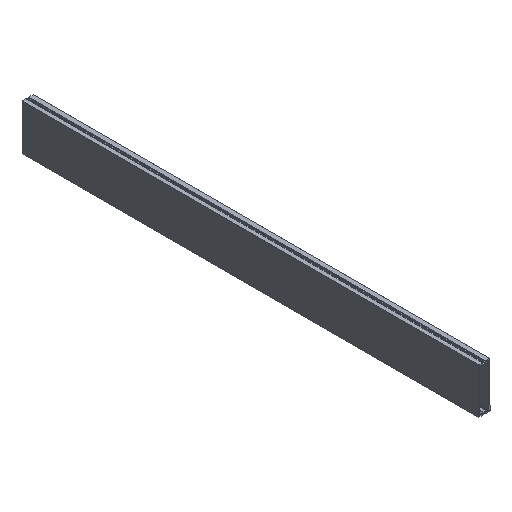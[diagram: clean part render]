
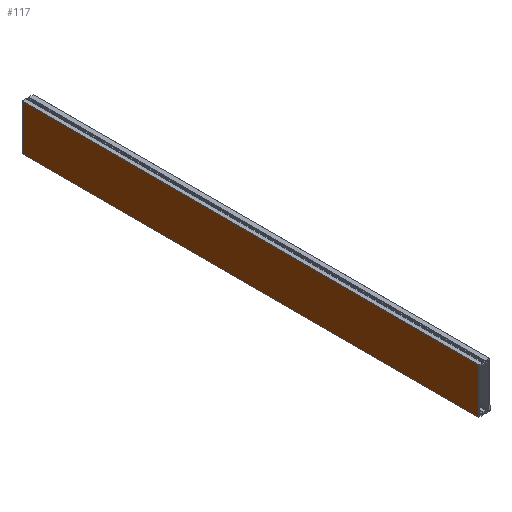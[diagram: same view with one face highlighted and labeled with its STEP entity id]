
A CAD part, isometric view. The second image highlights one B-rep face of the part: STEP entity #117.
In plain terms, the highlighted planar face has unit normal (-1, 0, 0).
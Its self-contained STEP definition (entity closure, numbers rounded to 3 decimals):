
#98 = CARTESIAN_POINT ( 'NONE',  ( -37., 0., -149.5 ) ) ;
#117 = ADVANCED_FACE ( 'NONE', ( #2557 ), #2213, .F. ) ;
#198 = VERTEX_POINT ( 'NONE', #3120 ) ;
#207 = VERTEX_POINT ( 'NONE', #2539 ) ;
#211 = CARTESIAN_POINT ( 'NONE',  ( -37., 3000., -149.5 ) ) ;
#225 = LINE ( 'NONE', #2840, #2895 ) ;
#275 = LINE ( 'NONE', #524, #920 ) ;
#356 = CARTESIAN_POINT ( 'NONE',  ( -37., 0., -149.5 ) ) ;
#496 = DIRECTION ( 'NONE',  ( 0., -1., 0. ) ) ;
#524 = CARTESIAN_POINT ( 'NONE',  ( -37., 3000., -149.5 ) ) ;
#569 = VERTEX_POINT ( 'NONE', #211 ) ;
#658 = DIRECTION ( 'NONE',  ( 0., 0., -1. ) ) ;
#864 = DIRECTION ( 'NONE',  ( 0., 0., 1. ) ) ;
#907 = CARTESIAN_POINT ( 'NONE',  ( -37., 3000., -149.5 ) ) ;
#920 = VECTOR ( 'NONE', #3162, 1000. ) ;
#1062 = EDGE_LOOP ( 'NONE', ( #1100, #2503, #2317, #1361 ) ) ;
#1075 = AXIS2_PLACEMENT_3D ( 'NONE', #907, #1954, #658 ) ;
#1100 = ORIENTED_EDGE ( 'NONE', *, *, #1209, .T. ) ;
#1209 = EDGE_CURVE ( 'NONE', #1256, #207, #1957, .T. ) ;
#1256 = VERTEX_POINT ( 'NONE', #98 ) ;
#1281 = EDGE_CURVE ( 'NONE', #198, #207, #3229, .T. ) ;
#1361 = ORIENTED_EDGE ( 'NONE', *, *, #2210, .T. ) ;
#1793 = VECTOR ( 'NONE', #864, 1000. ) ;
#1922 = CARTESIAN_POINT ( 'NONE',  ( -37., 3000., 149.5 ) ) ;
#1954 = DIRECTION ( 'NONE',  ( 1., 0., 0. ) ) ;
#1957 = LINE ( 'NONE', #356, #1793 ) ;
#2210 = EDGE_CURVE ( 'NONE', #569, #1256, #225, .T. ) ;
#2213 = PLANE ( 'NONE',  #1075 ) ;
#2227 = VECTOR ( 'NONE', #2971, 1000. ) ;
#2317 = ORIENTED_EDGE ( 'NONE', *, *, #2418, .F. ) ;
#2418 = EDGE_CURVE ( 'NONE', #569, #198, #275, .T. ) ;
#2503 = ORIENTED_EDGE ( 'NONE', *, *, #1281, .F. ) ;
#2539 = CARTESIAN_POINT ( 'NONE',  ( -37., 0., 149.5 ) ) ;
#2557 = FACE_OUTER_BOUND ( 'NONE', #1062, .T. ) ;
#2840 = CARTESIAN_POINT ( 'NONE',  ( -37., 3000., -149.5 ) ) ;
#2895 = VECTOR ( 'NONE', #496, 1000. ) ;
#2971 = DIRECTION ( 'NONE',  ( 0., -1., 0. ) ) ;
#3120 = CARTESIAN_POINT ( 'NONE',  ( -37., 3000., 149.5 ) ) ;
#3162 = DIRECTION ( 'NONE',  ( 0., 0., 1. ) ) ;
#3229 = LINE ( 'NONE', #1922, #2227 ) ;
